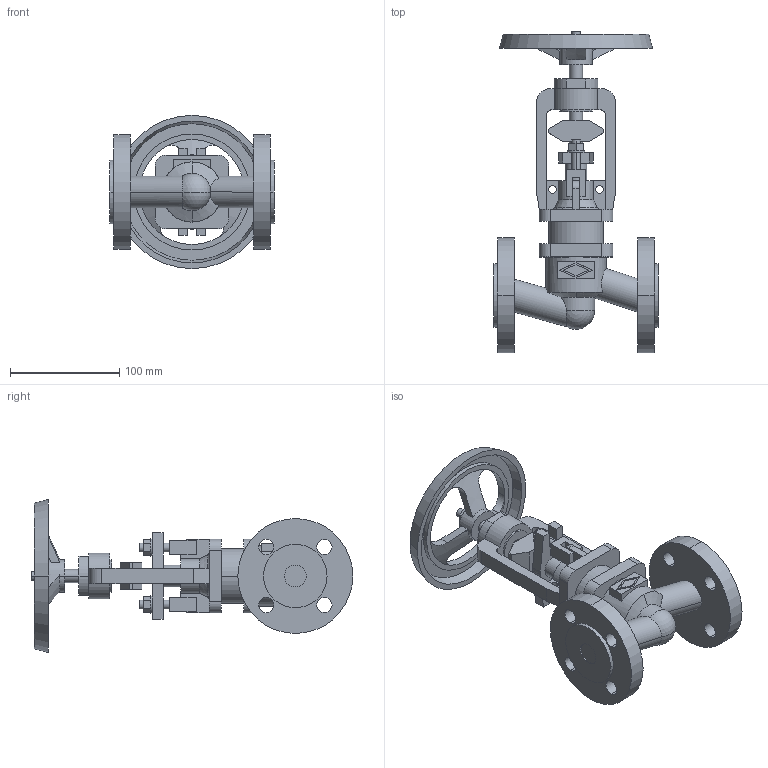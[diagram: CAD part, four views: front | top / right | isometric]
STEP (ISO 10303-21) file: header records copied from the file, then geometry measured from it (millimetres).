
FILE_DESCRIPTION(('OneSpaceDesigner STEP Export'),'2;1');
FILE_NAME('c000003747.stp','2009-06-16T10:58:43',(''),(''),'OneSpace Designer STEP processor for AP214 (Solid Model)','OneSpace Modeling 15.50B 03-Nov-2007 (C) CoCreate Software GmbH','');
FILE_SCHEMA(('AUTOMOTIVE_DESIGN { 1 0 10303 214 1 1 1 1 }'));
Length unit declared in the file: millimetre
Products named in the file (1): 1
Bounding box: 150 x 293.9 x 140 mm (x, y, z)
Volume: 800032.4 mm3; surface area: 158702.9 mm2
Topology: 1 solids, 1 shells, 284 faces, 743 edges, 486 vertices
Faces by surface type: plane 149, cylinder 107, cone 22, torus 4, sphere 2
Entity records: 10903 total; most frequent: CARTESIAN_POINT 1946, ORIENTED_EDGE 1482, DIRECTION 1241, EDGE_CURVE 741, VERTEX_POINT 486, VECTOR 435, LINE 435, AXIS2_PLACEMENT_3D 403
